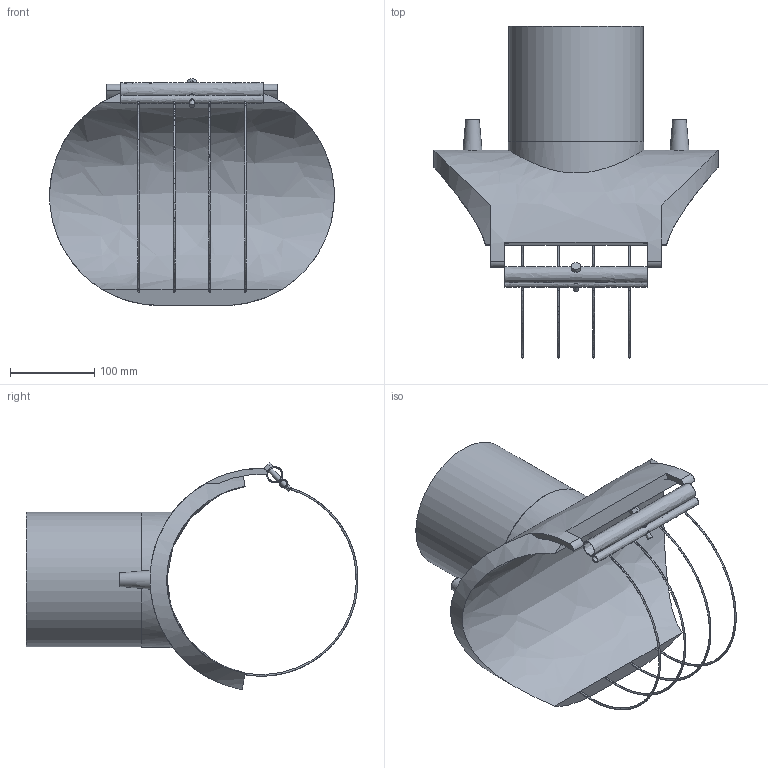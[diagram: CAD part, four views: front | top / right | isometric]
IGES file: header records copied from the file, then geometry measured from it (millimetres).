
Global section: file name: 4958X4225160T; native system: Autodesk Inventor 2021; preprocessor: unknown; author: KIM; date: 20250507.121538; units: millimetre
Bounding box: 338 x 394 x 269.42 mm (x, y, z)
Volume: 2979165.1 mm3; surface area: 411391.1 mm2
Topology: 1 solids, 1 shells, 61 faces, 179 edges, 122 vertices
Faces by surface type: bspline 61
